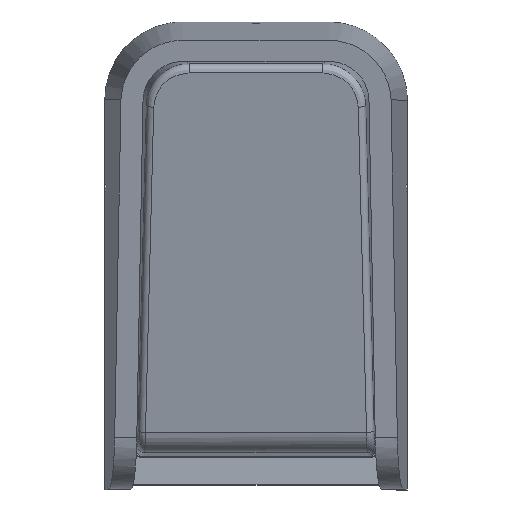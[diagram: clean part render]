
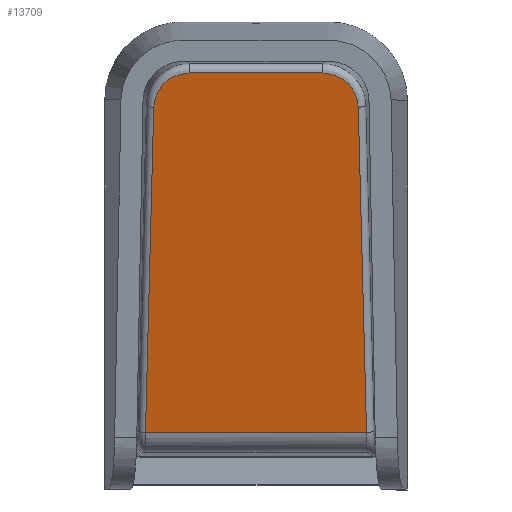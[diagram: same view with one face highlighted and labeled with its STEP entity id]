
A CAD part, top view. The second image highlights one B-rep face of the part: STEP entity #13709.
In plain terms, the highlighted planar face has unit normal (0, -0.22, 0.976) as drawn and (-0.22, 0, 0.976) by its records, which use the part's own axes.
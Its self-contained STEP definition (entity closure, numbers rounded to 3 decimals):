
#984=PLANE('',#14512);
#1397=FACE_OUTER_BOUND('',#2179,.T.);
#2179=EDGE_LOOP('',(#9540,#9541,#9542,#9543,#9544,#9545));
#3143=B_SPLINE_CURVE_WITH_KNOTS('',3,(#20074,#20075,#20076,#20077,#20078),
 .UNSPECIFIED.,.F.,.F.,(4,1,4),(0.,0.5,1.),.UNSPECIFIED.);
#3147=B_SPLINE_CURVE_WITH_KNOTS('',3,(#20235,#20236,#20237,#20238,#20239),
 .UNSPECIFIED.,.F.,.F.,(4,1,4),(0.,0.5,1.),.UNSPECIFIED.);
#3423=LINE('',#19927,#4624);
#3425=LINE('',#20088,#4626);
#3427=LINE('',#20249,#4628);
#3430=LINE('',#20356,#4631);
#4624=VECTOR('',#15860,304.8);
#4626=VECTOR('',#15864,304.8);
#4628=VECTOR('',#15868,304.8);
#4631=VECTOR('',#15877,304.8);
#5827=VERTEX_POINT('',#19912);
#5829=VERTEX_POINT('',#19926);
#5831=VERTEX_POINT('',#20073);
#5833=VERTEX_POINT('',#20087);
#5835=VERTEX_POINT('',#20234);
#5837=VERTEX_POINT('',#20248);
#7262=EDGE_CURVE('',#5829,#5827,#3423,.T.);
#7265=EDGE_CURVE('',#5831,#5829,#3143,.T.);
#7268=EDGE_CURVE('',#5833,#5831,#3425,.T.);
#7271=EDGE_CURVE('',#5835,#5833,#3147,.T.);
#7274=EDGE_CURVE('',#5837,#5835,#3427,.T.);
#7282=EDGE_CURVE('',#5827,#5837,#3430,.T.);
#9540=ORIENTED_EDGE('',*,*,#7268,.T.);
#9541=ORIENTED_EDGE('',*,*,#7265,.T.);
#9542=ORIENTED_EDGE('',*,*,#7262,.T.);
#9543=ORIENTED_EDGE('',*,*,#7282,.T.);
#9544=ORIENTED_EDGE('',*,*,#7274,.T.);
#9545=ORIENTED_EDGE('',*,*,#7271,.T.);
#13709=ADVANCED_FACE('',(#1397),#984,.T.);
#14512=AXIS2_PLACEMENT_3D('',#20469,#15994,#15995);
#15860=DIRECTION('',(-0.975,0.025,-0.22));
#15864=DIRECTION('',(0.,1.,0.));
#15868=DIRECTION('',(0.975,0.025,0.22));
#15877=DIRECTION('',(0.,-1.,0.));
#15994=DIRECTION('center_axis',(-0.22,0.,0.976));
#15995=DIRECTION('ref_axis',(0.976,0.,0.22));
#19912=CARTESIAN_POINT('',(-102.386,59.766,42.622));
#19926=CARTESIAN_POINT('',(73.404,55.314,82.238));
#19927=CARTESIAN_POINT('',(73.404,55.314,82.238));
#20073=CARTESIAN_POINT('',(91.915,36.185,86.41));
#20074=CARTESIAN_POINT('Ctrl Pts',(91.915,36.185,86.41));
#20075=CARTESIAN_POINT('Ctrl Pts',(91.348,41.922,86.282));
#20076=CARTESIAN_POINT('Ctrl Pts',(87.695,50.846,85.459));
#20077=CARTESIAN_POINT('Ctrl Pts',(79.007,54.674,83.501));
#20078=CARTESIAN_POINT('Ctrl Pts',(73.404,55.314,82.238));
#20087=CARTESIAN_POINT('',(91.915,-36.185,86.41));
#20088=CARTESIAN_POINT('',(91.915,-36.185,86.41));
#20234=CARTESIAN_POINT('',(73.404,-55.314,82.238));
#20235=CARTESIAN_POINT('Ctrl Pts',(73.404,-55.314,82.238));
#20236=CARTESIAN_POINT('Ctrl Pts',(79.007,-54.674,83.501));
#20237=CARTESIAN_POINT('Ctrl Pts',(87.695,-50.846,85.459));
#20238=CARTESIAN_POINT('Ctrl Pts',(91.348,-41.922,86.282));
#20239=CARTESIAN_POINT('Ctrl Pts',(91.915,-36.185,86.41));
#20248=CARTESIAN_POINT('',(-102.386,-59.766,42.622));
#20249=CARTESIAN_POINT('',(-102.386,-59.766,42.622));
#20356=CARTESIAN_POINT('',(-102.386,59.766,42.622));
#20469=CARTESIAN_POINT('Origin',(-113.912,-70.75,40.024));
